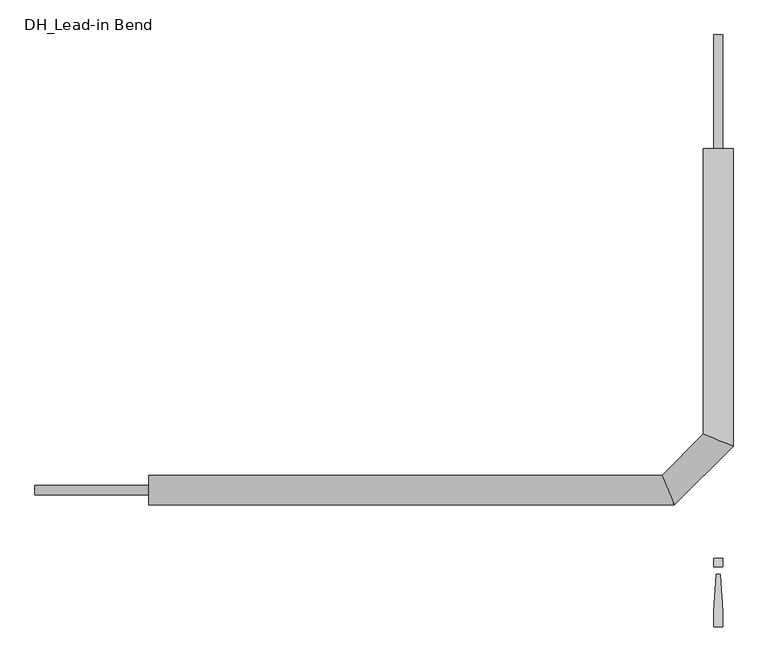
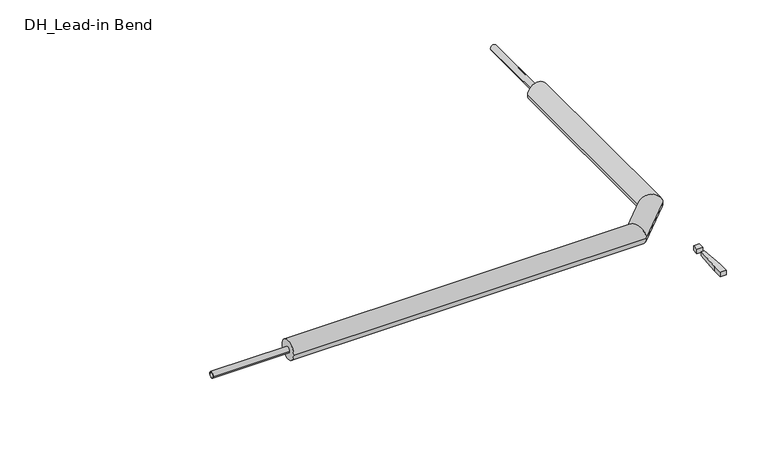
"""IFC4 building model written with IfcOpenShell, lengths in millimetres: pipe fitting geometry, DH_Lead-in Bend : INSULPEX UNO 11 Heating."""

from ifc_helpers import new_model, si_unit, point, frame, origin, origin_with_axes, origin_2d, place, context, project, spatial, polyline, circle_curve, ellipse_curve, trimmed, segment, composite_curve, outline, extrude, source, transform, mapped, element, save
from ifc_brep_helpers import plane_surface, cylinder_surface, advanced_brep


def dh_lead_in_bend_522bbd6f(model_context):
    return source(origin(), model_context, "Body", "SolidModel", [
        advanced_brep(
        [(-1250.0, -32.5, 0.0), (-1250.0, 32.5, 0.0), (-96.5380592, -32.5, 0.0), (-123.4619408, 32.5, 0.0), (32.5, 750.0, 0.0), (-32.5, 750.0, 0.0), (-32.5, 123.4619408, 0.0), (32.5, 96.5380592, 0.0)],
        [
            (0, 1, circle_curve(frame((-1250.0, 0.0, 0.0), z_axis=(-1.0, 0.0, 0.0), x_axis=(0.0, 1.0, 0.0)), 32.5)),
            (1, 0, circle_curve(frame((-1250.0, 0.0, 0.0), z_axis=(-1.0, 0.0, 0.0), x_axis=(0.0, 1.0, 0.0)), 32.5)),
            (0, 2),
            (2, 3, ellipse_curve(frame((-110.0, 0.0, 0.0), z_axis=(-0.9238795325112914, -0.3826834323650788, 0.0), x_axis=(-0.38268343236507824, 0.9238795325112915, 0.0)), 35.1777465, 32.5)),
            (3, 1),
            (3, 2, ellipse_curve(frame((-110.0, 0.0, 0.0), z_axis=(-0.9238795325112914, -0.3826834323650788, 0.0), x_axis=(-0.38268343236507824, 0.9238795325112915, 0.0)), 35.1777465, 32.5)),
            (4, 5, circle_curve(frame((0.0, 750.0, 0.0), z_axis=(0.0, 1.0, 0.0), x_axis=(-1.0, 0.0, 0.0)), 32.5)),
            (5, 4, circle_curve(frame((0.0, 750.0, 0.0), z_axis=(0.0, 1.0, 0.0), x_axis=(-1.0, 0.0, 0.0)), 32.5)),
            (6, 7, ellipse_curve(frame((0.0, 110.0, 0.0), z_axis=(0.38268343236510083, 0.9238795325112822, 0.0), x_axis=(0.9238795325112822, -0.3826834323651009, 0.0)), 35.1777465, 32.5)),
            (7, 4),
            (5, 6),
            (7, 6, ellipse_curve(frame((0.0, 110.0, 0.0), z_axis=(0.38268343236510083, 0.9238795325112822, 0.0), x_axis=(0.9238795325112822, -0.3826834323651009, 0.0)), 35.1777465, 32.5)),
            (2, 7),
            (6, 3),
        ],
        [
            plane_surface(frame((-1250.0, 0.0, 0.0), z_axis=(-1.0, 0.0, 0.0), x_axis=(0.0, 0.0, 1.0))),
            cylinder_surface(frame((-1250.0, 0.0, 0.0), z_axis=(-1.0, 0.0, 0.0), x_axis=(0.0, 1.0, 0.0)), 32.5),
            plane_surface(frame((0.0, 750.0, 0.0), z_axis=(0.0, 1.0, 0.0), x_axis=(0.0, 0.0, 1.0))),
            cylinder_surface(frame((0.0, 110.0, 0.0), z_axis=(0.0, -1.0, 0.0), x_axis=(-1.0, 0.0, 0.0)), 32.5),
            cylinder_surface(frame((-110.0, 0.0, 0.0), z_axis=(-0.7071067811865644, -0.7071067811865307, 0.0), x_axis=(-0.7071067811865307, 0.7071067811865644, 0.0)), 32.5),
        ],
        [
            (0, [[1, 2]]),
            (1, [[-1, 3, 4, 5]]),
            (1, [[-2, -5, 6, -3]]),
            (2, [[7, 8]]),
            (3, [[9, 10, -8, 11]]),
            (3, [[12, -11, -7, -10]]),
            (4, [[-4, 13, -9, 14]]),
            (4, [[-6, -14, -12, -13]]),
        ],
    ),
        extrude(outline(polyline([(4.7088895, -185.3166715), (9.4177791, -266.6553807), (9.4177791, -300.6844652), (-9.4177791, -300.6844652), (-9.4177791, -266.6553807), (-4.7088895, -185.3166715), (4.7088895, -185.3166715)])), origin_with_axes(), (0.0, 0.0, 1.0), 15.0),
        extrude(outline(polyline([(9.4177791, -150.0), (9.4177791, -168.8355582), (-9.4177791, -168.8355582), (-9.4177791, -150.0), (9.4177791, -150.0)])), origin_with_axes(), (0.0, 0.0, 1.0), 15.0),
        extrude(outline(composite_curve([segment(trimmed(circle_curve(origin_2d(), 10.0), [point((-10.0, 0.0))], [point((10.0, 0.0))], False, "CARTESIAN"), True, "CONTINUOUS"), segment(trimmed(circle_curve(origin_2d(), 10.0), [point((10.0, 0.0))], [point((-10.0, 0.0))], False, "CARTESIAN"), True, "CONTINUOUS")], self_intersect=False), holes=[composite_curve([segment(trimmed(circle_curve(origin_2d(), 8.1), [point((-8.1, 0.0))], [point((8.1, 0.0))], True, "CARTESIAN"), True, "CONTINUOUS"), segment(trimmed(circle_curve(origin_2d(), 8.1), [point((8.1, 0.0))], [point((-8.1, 0.0))], True, "CARTESIAN"), True, "CONTINUOUS")], self_intersect=False)]), frame((-1500.0, 0.0, 0.0), z_axis=(1.0, 0.0, 0.0), x_axis=(0.0, 1.0, 0.0)), (0.0, 0.0, 1.0), 250.0),
        extrude(outline(composite_curve([segment(trimmed(circle_curve(origin_2d(), 10.0), [point((0.0, 10.0))], [point((0.0, -10.0))], False, "CARTESIAN"), True, "CONTINUOUS"), segment(trimmed(circle_curve(origin_2d(), 10.0), [point((0.0, -10.0))], [point((0.0, 10.0))], False, "CARTESIAN"), True, "CONTINUOUS")], self_intersect=False), holes=[composite_curve([segment(trimmed(circle_curve(origin_2d(), 8.1), [point((0.0, 8.1))], [point((0.0, -8.1))], True, "CARTESIAN"), True, "CONTINUOUS"), segment(trimmed(circle_curve(origin_2d(), 8.1), [point((0.0, -8.1))], [point((0.0, 8.1))], True, "CARTESIAN"), True, "CONTINUOUS")], self_intersect=False)]), frame((0.0, 750.0, 0.0), z_axis=(0.0, 1.0, 0.0), x_axis=(0.0, 0.0, 1.0)), (0.0, 0.0, 1.0), 250.0),
    ])


if __name__ == "__main__":
    model = new_model("IFC4")
    model_context = context("Model", 3, world=origin())
    ifc_project = project(units=[si_unit("LENGTHUNIT", "METRE", prefix="MILLI")], contexts=[model_context])
    site = spatial("IfcSite", under=ifc_project)
    building = spatial("IfcBuilding", under=site)
    placement = place(None, origin())
    dh_lead_in_bend_shape = dh_lead_in_bend_522bbd6f(model_context)
    element("IfcPipeFitting", 1, ObjectType="DH_Lead-in Bend : INSULPEX UNO 11 Heating", at=placement, inside=building, context=model_context, shape_type="MappedRepresentation", body=[
        mapped(dh_lead_in_bend_shape, transform((0.0, 0.0, 0.0), x_axis=(1.0, 0.0, 0.0), y_axis=(0.0, 1.0, 0.0), z_axis=(0.0, 0.0, 1.0))),
    ])
    save(model, "model.ifc")
